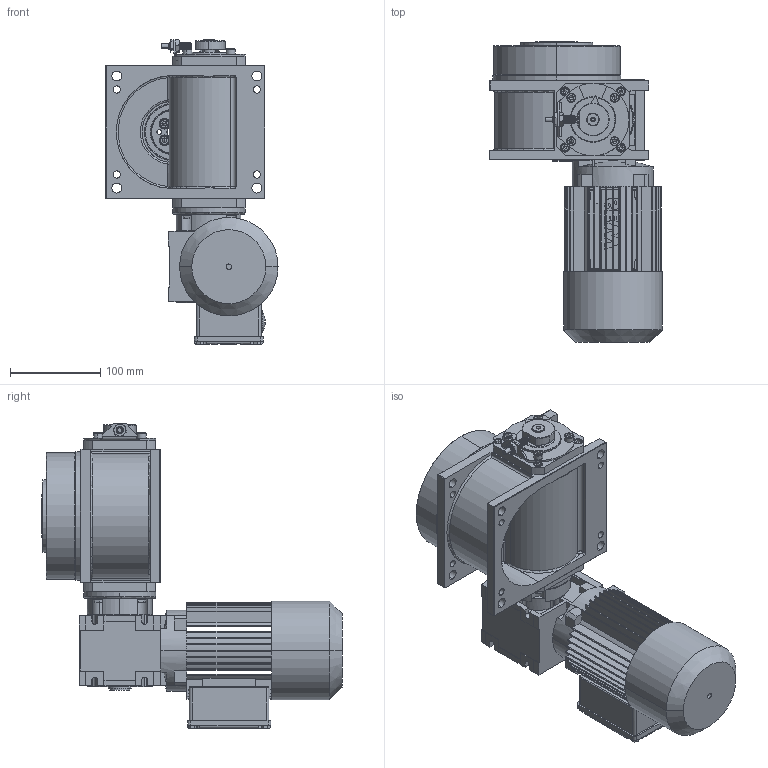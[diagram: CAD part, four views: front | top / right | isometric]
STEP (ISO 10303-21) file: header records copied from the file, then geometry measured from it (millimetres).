
FILE_DESCRIPTION (( 'STEP AP214' ), '1' );
FILE_NAME ('M140_SEW_WAF10DT56L4BMG_D2.STEP', '2021-01-22T15:39:37', ( '' ), ( '' ), 'SwSTEP 2.0', 'SolidWorks 2020', '' );
FILE_SCHEMA (( 'AUTOMOTIVE_DESIGN' ));
Length unit declared in the file: millimetre
Products named in the file (1): M140_SEW_WAF10DT56L4BMG_D2
Bounding box: 190.5 x 332.2 x 337.29 mm (x, y, z)
Surface area: 394847.1 mm2 (no closed solid volume)
Topology: 0 solids, 52 shells, 1293 faces, 4359 edges, 2943 vertices
Faces by surface type: plane 648, cylinder 449, cone 95, bspline 53, torus 48
Entity records: 67218 total; most frequent: CARTESIAN_POINT 15751, DIRECTION 7814, ORIENTED_EDGE 7218, EDGE_CURVE 4332, VERTEX_POINT 2943, AXIS2_PLACEMENT_3D 2635, LINE 2544, VECTOR 2544
